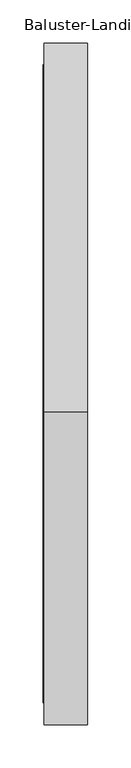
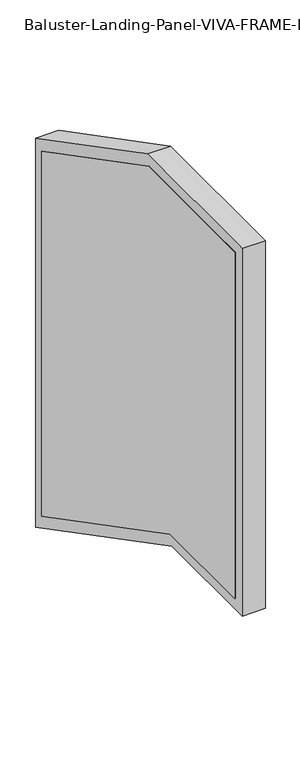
"""IFC4 building model written with IfcOpenShell, lengths in millimetres: railing geometry, Baluster-Landing-Panel-VIVA-FRAME-Lower : Standard_PP01."""

from ifc_helpers import new_model, si_unit, frame, origin, place, context, project, spatial, polyline, outline, extrude, faceted_brep, source, transform, mapped, element, save


def baluster_landing_panel_viva_frame_lower_standard_pp01_a1165722(model_context):
    return source(origin(), model_context, "Body", "SolidModel", [
        extrude(outline(polyline([(-517.599583, 97.8229457), (-766.5444126, 97.8229457), (-766.5444126, 906.145), (-434.563576, 906.145), (-25.4, 693.147924), (-25.4, -158.3999395), (-517.599583, 97.8229457)])), frame((14.2584857, 0.0, 0.0), z_axis=(1.0, 0.0, 0.0), x_axis=(0.0, 1.0, 0.0)), (0.0, 0.0, 1.0), 2.9972),
        faceted_brep([(35.6827057, -5.9329371, -190.4806664), (66.4929057, -5.9329371, -190.4806664), (66.4929057, -5.9329371, 704.9608278), (35.6827057, -5.9329371, 704.9608278), (15.6929057, -50.7385371, -116.6433228), (35.6827057, -50.7385371, -116.6433228), (35.6827057, -50.7385371, 677.7721223), (15.6929057, -50.7385371, 677.7721223), (66.4929057, 0.0614629, -200.3591319), (15.6929057, 0.0614629, -200.3591319), (15.6929057, 0.0614629, 708.598319), (66.4929057, 0.0614629, 708.598319), (66.4929057, -429.8000161, 925.6120629), (35.6827057, -429.8000161, 925.6120629), (35.6827057, -440.7638766, 880.8064629), (15.6929057, -440.7638766, 880.8064629), (15.6929057, -428.3331957, 931.6064629), (66.4929057, -428.3331957, 931.6064629), (66.4929057, -786.0114756, 925.6120629), (35.6827057, -786.0114756, 925.6120629), (35.6827057, -741.2058756, 880.8064629), (15.6929057, -741.2058756, 880.8064629), (15.6929057, -792.0058756, 931.6064629), (66.4929057, -792.0058756, 931.6064629), (66.4929057, -786.0114756, 78.3558827), (35.6827057, -786.0114756, 78.3558827), (35.6827057, -741.2058756, 123.1614827), (15.6929057, -741.2058756, 123.1614827), (15.6929057, -792.0058756, 72.3614827), (66.4929057, -792.0058756, 72.3614827), (66.4929057, -522.363143, 78.3558827), (35.6827057, -522.363143, 78.3558827), (35.6827057, -511.3992824, 123.1614827), (15.6929057, -511.3992824, 123.1614827), (15.6929057, -523.8299633, 72.3614827), (66.4929057, -523.8299633, 72.3614827)], [[[0, 1, 2, 3]], [[4, 5, 6, 7]], [[8, 9, 10, 11]], [[3, 2, 12, 13]], [[7, 6, 14, 15]], [[11, 10, 16, 17]], [[13, 12, 18, 19]], [[15, 14, 20, 21]], [[17, 16, 22, 23]], [[19, 18, 24, 25]], [[21, 20, 26, 27]], [[23, 22, 28, 29]], [[25, 24, 30, 31]], [[27, 26, 32, 33]], [[29, 28, 34, 35]], [[23, 29, 35, 8, 11, 17], [1, 30, 24, 18, 12, 2]], [[31, 30, 1, 0]], [[19, 25, 31, 0, 3, 13], [5, 32, 26, 20, 14, 6]], [[33, 32, 5, 4]], [[9, 34, 28, 22, 16, 10], [21, 27, 33, 4, 7, 15]], [[35, 34, 9, 8]]]),
    ])


if __name__ == "__main__":
    model = new_model("IFC4")
    model_context = context("Model", 3, world=origin())
    ifc_project = project(units=[si_unit("LENGTHUNIT", "METRE", prefix="MILLI")], contexts=[model_context])
    site = spatial("IfcSite", under=ifc_project)
    building = spatial("IfcBuilding", under=site)
    placement = place(None, origin())
    baluster_landing_panel_viva_frame_lower_standard_pp01_shape = baluster_landing_panel_viva_frame_lower_standard_pp01_a1165722(model_context)
    element("IfcRailing", 1, ObjectType="Baluster-Landing-Panel-VIVA-FRAME-Lower : Standard_PP01", at=placement, inside=building, context=model_context, shape_type="MappedRepresentation", body=[
        mapped(baluster_landing_panel_viva_frame_lower_standard_pp01_shape, transform((0.0, 0.0, 0.0), x_axis=(1.0, 0.0, 0.0), y_axis=(0.0, 1.0, 0.0), z_axis=(0.0, 0.0, 1.0))),
    ])
    save(model, "model.ifc")
